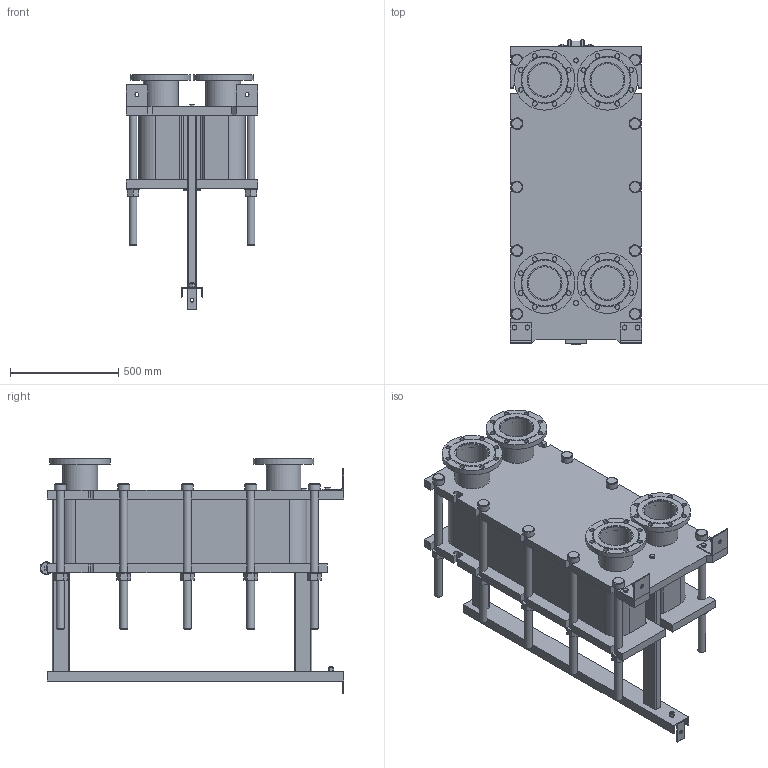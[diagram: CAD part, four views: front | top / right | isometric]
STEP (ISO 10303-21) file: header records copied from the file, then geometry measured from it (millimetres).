
FILE_DESCRIPTION(/* description */ (''),/* implementation_level */ '2;1');
FILE_NAME(/* name */ 'C:\Users\zhuro\Desktop\ENCO\TO\ЭН-041\ЭН-0,5-041-87-1.stp',/* time_stamp */ '2022-06-06T10:56:53+03:00',/* author */ ('zhuro'),/* organization */ (''),/* preprocessor_version */ 'ST-DEVELOPER v18.1',/* originating_system */ 'Autodesk Inventor 2022',/* authorisation */ '');
FILE_SCHEMA (('AUTOMOTIVE_DESIGN { 1 0 10303 214 3 1 1 }'));
Length unit declared in the file: millimetre
Products named in the file (1): ЭН-0,5-041-87-1
Bounding box: 610 x 1406.5 x 1092.5 mm (x, y, z)
Volume: 248375157.9 mm3; surface area: 8737871.8 mm2
Topology: 52 solids, 52 shells, 711 faces, 1696 edges, 1094 vertices
Faces by surface type: plane 487, cylinder 177, cone 41, torus 6
Full cylindrical faces by diameter (mm): 8 x4, 10 x2, 16 x8, 18 x3, 22 x32, 36 x24, 50 x1, 54 x10, 60 x12, 151 x4, 161 x8, 280 x4
Entity records: 22667 total; most frequent: CARTESIAN_POINT 5230, DIRECTION 3644, ORIENTED_EDGE 3392, EDGE_CURVE 1696, AXIS2_PLACEMENT_3D 1272, LINE 1100, VECTOR 1100, VERTEX_POINT 1094
